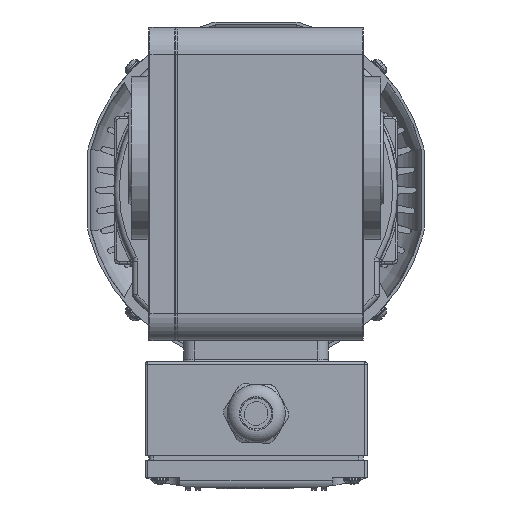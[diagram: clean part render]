
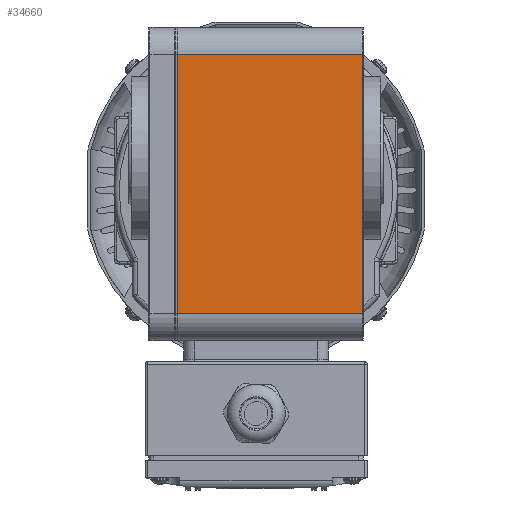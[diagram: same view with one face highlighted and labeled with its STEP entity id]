
A CAD part, front view. The second image highlights one B-rep face of the part: STEP entity #34660.
In plain terms, the highlighted planar face has unit normal (0, -1, 0).
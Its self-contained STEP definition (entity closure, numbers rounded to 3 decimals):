
#1061=PLANE('',#38087);
#2901=FACE_OUTER_BOUND('',#4943,.T.);
#4943=EDGE_LOOP('',(#28166,#28167,#28168,#28169));
#9348=LINE('',#59253,#11806);
#9438=LINE('',#59883,#11896);
#9449=LINE('',#59944,#11907);
#9450=LINE('',#59945,#11908);
#11806=VECTOR('',#46134,105.);
#11896=VECTOR('',#46608,105.);
#11907=VECTOR('',#46657,75.);
#11908=VECTOR('',#46658,75.);
#15094=VERTEX_POINT('',#59245);
#15096=VERTEX_POINT('',#59251);
#15209=VERTEX_POINT('',#59877);
#15210=VERTEX_POINT('',#59881);
#19428=EDGE_CURVE('',#15096,#15094,#9348,.T.);
#19638=EDGE_CURVE('',#15210,#15209,#9438,.T.);
#19661=EDGE_CURVE('',#15210,#15094,#9449,.T.);
#19662=EDGE_CURVE('',#15209,#15096,#9450,.T.);
#28166=ORIENTED_EDGE('',*,*,#19638,.F.);
#28167=ORIENTED_EDGE('',*,*,#19661,.T.);
#28168=ORIENTED_EDGE('',*,*,#19428,.F.);
#28169=ORIENTED_EDGE('',*,*,#19662,.F.);
#34660=ADVANCED_FACE('',(#2901),#1061,.T.);
#38087=AXIS2_PLACEMENT_3D('',#59943,#46655,#46656);
#46134=DIRECTION('',(0.,0.,-1.));
#46608=DIRECTION('',(0.,0.,1.));
#46655=DIRECTION('center_axis',(0.,-1.,0.));
#46656=DIRECTION('ref_axis',(1.,0.,0.));
#46657=DIRECTION('',(1.,0.,0.));
#46658=DIRECTION('',(1.,0.,0.));
#59245=CARTESIAN_POINT('',(39.246,0.,-116.));
#59251=CARTESIAN_POINT('',(39.246,0.,-11.));
#59253=CARTESIAN_POINT('',(39.246,0.,-11.));
#59877=CARTESIAN_POINT('',(-35.754,0.,-11.));
#59881=CARTESIAN_POINT('',(-35.754,0.,-116.));
#59883=CARTESIAN_POINT('',(-35.754,0.,-116.));
#59943=CARTESIAN_POINT('Origin',(-3.754,0.,-11.));
#59944=CARTESIAN_POINT('',(-35.754,0.,-116.));
#59945=CARTESIAN_POINT('',(-35.754,0.,-11.));
